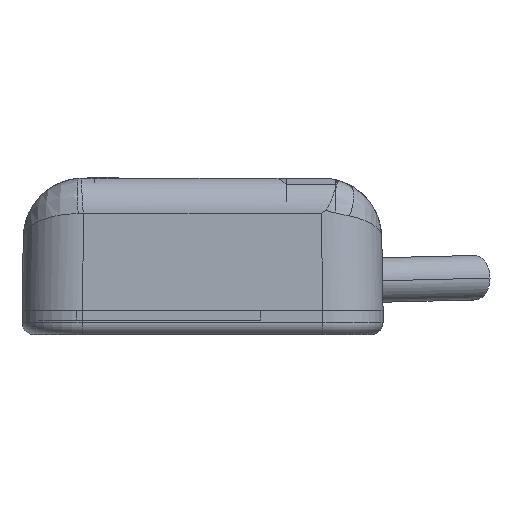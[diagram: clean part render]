
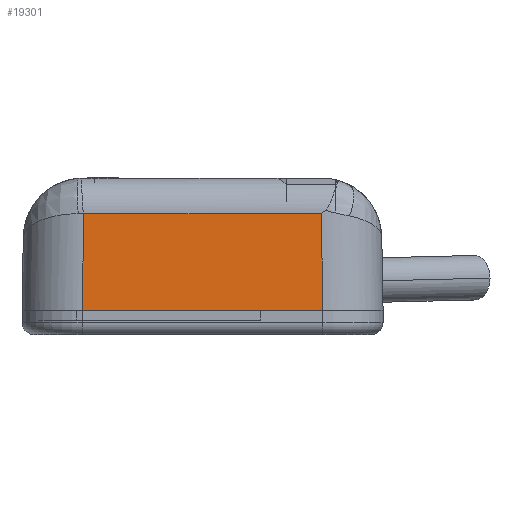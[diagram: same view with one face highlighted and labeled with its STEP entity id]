
A CAD part, front view. The second image highlights one B-rep face of the part: STEP entity #19301.
In plain terms, the highlighted planar face has unit normal (0, -1, 0.018).
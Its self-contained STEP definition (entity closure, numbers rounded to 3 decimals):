
#426=CARTESIAN_POINT('',(-34.876,-135.25,0.));
#4551=CARTESIAN_POINT('',(-15.015,-135.109,
8.052));
#4597=DIRECTION('',(-1.,0.,0.));
#4598=VECTOR('',#4597,19.724);
#4599=CARTESIAN_POINT('',(-15.015,-135.109,
8.052));
#4600=LINE('',#4599,#4598);
#6189=DIRECTION('',(0.017,0.017,1.));
#6190=VECTOR('',#6189,8.058);
#6191=CARTESIAN_POINT('',(-34.876,-135.25,
0.));
#6192=LINE('',#6191,#6190);
#6193=DIRECTION('',(0.017,-0.017,-1.));
#6194=VECTOR('',#6193,8.055);
#6195=CARTESIAN_POINT('',(-15.015,-135.109,
8.052));
#6196=LINE('',#6195,#6194);
#6197=DIRECTION('',(-1.,0.,0.));
#6198=VECTOR('',#6197,20.001);
#6199=CARTESIAN_POINT('',(-14.875,-135.25,
0.));
#6200=LINE('',#6199,#6198);
#9142=VERTEX_POINT('',#426);
#9143=CARTESIAN_POINT('',(-14.875,-135.25,
0.));
#9144=VERTEX_POINT('',#9143);
#10059=VERTEX_POINT('',#4551);
#10071=CARTESIAN_POINT('',(-34.739,-135.109,
8.055));
#10072=VERTEX_POINT('',#10071);
#19290=CARTESIAN_POINT('',(-24.876,-135.25,0.));
#19291=DIRECTION('',(0.,-1.,0.017));
#19292=DIRECTION('',(0.,0.017,1.));
#19293=AXIS2_PLACEMENT_3D('',#19290,#19291,#19292);
#19294=PLANE('',#19293);
#19295=ORIENTED_EDGE('',*,*,#17047,.T.);
#19296=ORIENTED_EDGE('',*,*,#16940,.F.);
#19297=ORIENTED_EDGE('',*,*,#16919,.T.);
#19298=ORIENTED_EDGE('',*,*,#11927,.T.);
#19299=EDGE_LOOP('',(#19295,#19296,#19297,#19298));
#19300=FACE_OUTER_BOUND('',#19299,.F.);
#11927=EDGE_CURVE('',#9144,#9142,#6200,.T.);
#16919=EDGE_CURVE('',#10059,#9144,#6196,.T.);
#16940=EDGE_CURVE('',#10059,#10072,#4600,.T.);
#17047=EDGE_CURVE('',#9142,#10072,#6192,.T.);
#19301=ADVANCED_FACE('',(#19300),#19294,.T.);
